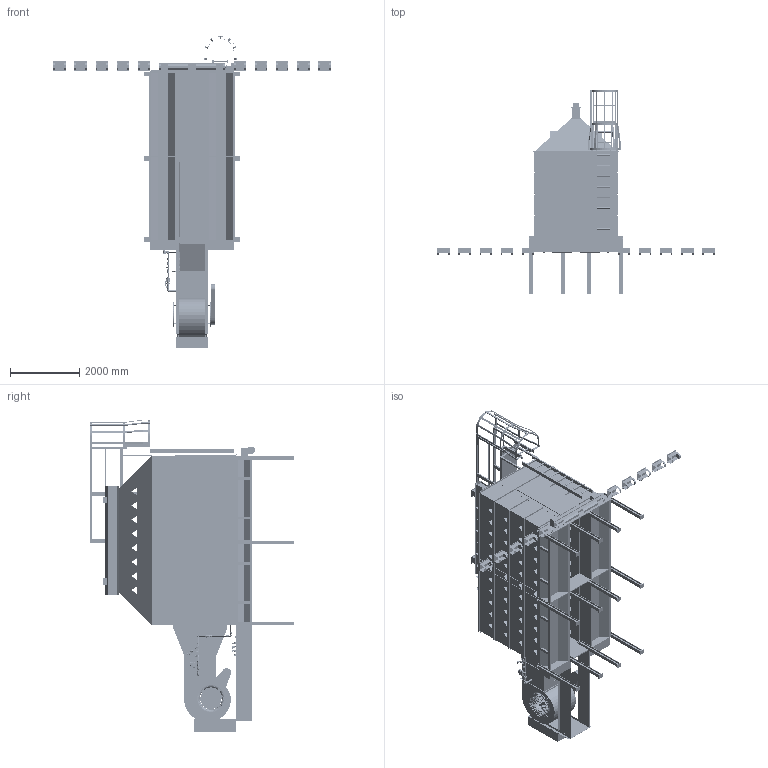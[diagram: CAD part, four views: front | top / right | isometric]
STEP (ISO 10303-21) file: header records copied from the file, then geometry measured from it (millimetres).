
FILE_DESCRIPTION(/* description */ ('PLAN AND ELEVATION VIEW FOR D1660 WITH ROOF & LEVEL AUGER'),/* implementation_level */ '2;1');
FILE_NAME(/* name */ 'C:\Engineering\Designs\Sales\Dryer\Workspaces\D16 All\D1660LA.stp',/* time_stamp */ '2025-01-06T16:39:46-06:00',/* author */ ('max.fleming'),/* organization */ (''),/* preprocessor_version */ 'ST-DEVELOPER v18.1',/* originating_system */ 'Autodesk Inventor 2022',/* authorisation */ '');
FILE_SCHEMA (('AUTOMOTIVE_DESIGN { 1 0 10303 214 3 1 1 }'));
Products named in the file (24): D1660LA; 16FT FRAME; 8FT LHRH FRAME; 16FT ROOF GF; 8FTRoof GF LHRH; Tongue; 16FT BODY TIER; LH Body; RH Body; LH Body_MIR6; RH Body_MIR6; Outside Splice; Standard Size End Plenum Panels; Ladder 2' section; Trans & Blower; Belt Shield; Screen Guard; LP Fuel; Level Auger 16'; Level Auger; 8'' Intake; 6'' CROSS AUGER; Leg Kit-02; 16FT CATWALK
Assembly tree (47 placements, depth 3):
  D1660LA
    16FT FRAME
      8FT LHRH FRAME  x2
    16FT ROOF GF
      8FTRoof GF LHRH  x2
    Tongue
    16FT BODY TIER  x4
      LH Body
      RH Body
      LH Body_MIR6
      RH Body_MIR6
      Outside Splice
    Leg Kit-02  x12
    Standard Size End Plenum Panels  x5
    Trans & Blower  x2
    Belt Shield  x2
    Screen Guard  x4
    LP Fuel  x2
    16FT CATWALK
  Ladder 2' section
  Level Auger 16'
    Level Auger  x2
  8'' Intake
  6'' CROSS AUGER
Bounding box: 8007.35 x 5901.14 x 9028.52 mm (x, y, z)
Volume: 30018399623.6 mm3; surface area: 401284150.9 mm2
Topology: 350 solids, 506 shells, 32606 faces, 84628 edges, 53852 vertices
Faces by surface type: plane 14036, cylinder 9842, bspline 3710, cone 3256, torus 1584, sphere 178
Full cylindrical faces by diameter (mm): 1 x10, 1.651 x6, 1.753 x6, 1.778 x12, 2.019 x4, 2.108 x2, 2.286 x24, 2.489 x2, 2.54 x4, 3.091 x288, 3.175 x4, 3.251 x20, 3.306 x288, 3.522 x2, 3.658 x28, 3.8 x16, 4 x384, 4.039 x20, 4.166 x256, 4.191 x4, 4.229 x2, 4.267 x2, 4.369 x8, 4.445 x8, 4.701 x592, 4.762 x16, 4.851 x8, 4.928 x32, 5.283 x2, 5.527 x20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
Entity records: 708779 total; most frequent: CARTESIAN_POINT 327163, ORIENTED_EDGE 80098, DIRECTION 71326, EDGE_CURVE 40189, VERTEX_POINT 25633, AXIS2_PLACEMENT_3D 24936, LINE 21454, VECTOR 21454
